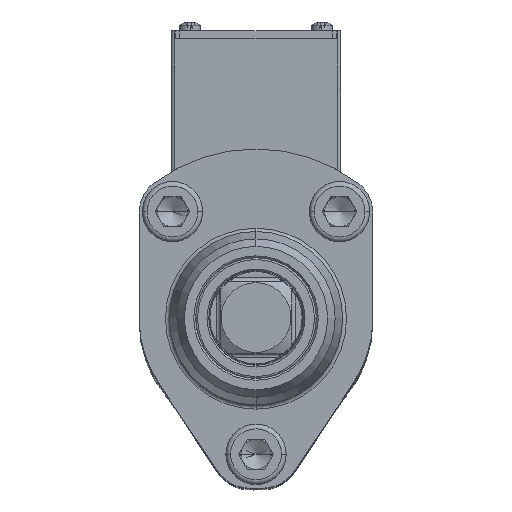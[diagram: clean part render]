
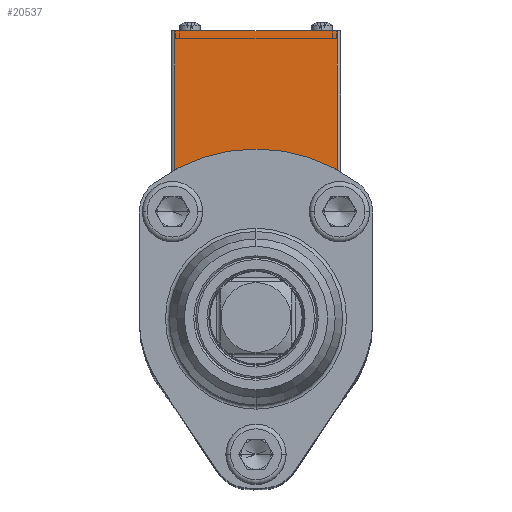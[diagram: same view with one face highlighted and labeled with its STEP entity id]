
A CAD part, top view. The second image highlights one B-rep face of the part: STEP entity #20537.
In plain terms, the highlighted planar face has unit normal (0, 0, 1).
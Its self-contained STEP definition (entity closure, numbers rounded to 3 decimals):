
#250 = ORIENTED_EDGE ( 'NONE', *, *, #21887, .F. ) ;
#332 = CARTESIAN_POINT ( 'NONE',  ( -8.7, 41., -103.5 ) ) ;
#412 = LINE ( 'NONE', #14936, #9082 ) ;
#553 = EDGE_CURVE ( 'NONE', #14847, #8975, #4356, .T. ) ;
#686 = EDGE_LOOP ( 'NONE', ( #22682, #13495, #1540, #11958, #11214, #12500, #9325, #7942, #18133, #9189 ) ) ;
#717 = VERTEX_POINT ( 'NONE', #8423 ) ;
#843 = DIRECTION ( 'NONE',  ( 0., 0., 1. ) ) ;
#953 = DIRECTION ( 'NONE',  ( 1., 0., 0. ) ) ;
#1086 = CIRCLE ( 'NONE', #7559, 1.7 ) ;
#1512 = DIRECTION ( 'NONE',  ( 0., 0., 1. ) ) ;
#1540 = ORIENTED_EDGE ( 'NONE', *, *, #5156, .F. ) ;
#1842 = VECTOR ( 'NONE', #18206, 1000. ) ;
#2228 = ORIENTED_EDGE ( 'NONE', *, *, #4672, .F. ) ;
#2335 = DIRECTION ( 'NONE',  ( 1., 0., 0. ) ) ;
#2345 = CIRCLE ( 'NONE', #9941, 32. ) ;
#2485 = CARTESIAN_POINT ( 'NONE',  ( 8.7, 41., -103.5 ) ) ;
#2515 = CARTESIAN_POINT ( 'NONE',  ( 21.5, 77., -103.5 ) ) ;
#2613 = EDGE_LOOP ( 'NONE', ( #17726, #2228 ) ) ;
#2830 = VERTEX_POINT ( 'NONE', #17003 ) ;
#2856 = CARTESIAN_POINT ( 'NONE',  ( -7.1, 33.25, -103.5 ) ) ;
#3631 = VERTEX_POINT ( 'NONE', #11659 ) ;
#3902 = VERTEX_POINT ( 'NONE', #17457 ) ;
#3985 = CIRCLE ( 'NONE', #13872, 1.7 ) ;
#4142 = AXIS2_PLACEMENT_3D ( 'NONE', #15498, #21015, #20881 ) ;
#4206 = DIRECTION ( 'NONE',  ( 0., 0., 1. ) ) ;
#4304 = VERTEX_POINT ( 'NONE', #15462 ) ;
#4356 = CIRCLE ( 'NONE', #17660, 1.7 ) ;
#4672 = EDGE_CURVE ( 'NONE', #717, #8971, #1086, .T. ) ;
#4676 = VECTOR ( 'NONE', #9763, 1000. ) ;
#4820 = CARTESIAN_POINT ( 'NONE',  ( -21.5, 77., -103.5 ) ) ;
#5065 = VECTOR ( 'NONE', #21774, 1000. ) ;
#5156 = EDGE_CURVE ( 'NONE', #17958, #21892, #21968, .T. ) ;
#5400 = CIRCLE ( 'NONE', #8461, 1.7 ) ;
#5615 = CARTESIAN_POINT ( 'NONE',  ( 7., 41., -103.5 ) ) ;
#5831 = EDGE_CURVE ( 'NONE', #7071, #3631, #6421, .T. ) ;
#6421 = CIRCLE ( 'NONE', #14376, 5.1 ) ;
#6908 = DIRECTION ( 'NONE',  ( 1., 0., 0. ) ) ;
#6997 = EDGE_CURVE ( 'NONE', #14646, #3902, #21617, .T. ) ;
#7060 = DIRECTION ( 'NONE',  ( -1., 0., 0. ) ) ;
#7071 = VERTEX_POINT ( 'NONE', #14396 ) ;
#7097 = EDGE_CURVE ( 'NONE', #19325, #4304, #10835, .T. ) ;
#7559 = AXIS2_PLACEMENT_3D ( 'NONE', #17149, #843, #22304 ) ;
#7894 = AXIS2_PLACEMENT_3D ( 'NONE', #18644, #9821, #2335 ) ;
#7942 = ORIENTED_EDGE ( 'NONE', *, *, #6997, .T. ) ;
#8267 = FACE_OUTER_BOUND ( 'NONE', #686, .T. ) ;
#8423 = CARTESIAN_POINT ( 'NONE',  ( 5.3, 41., -103.5 ) ) ;
#8461 = AXIS2_PLACEMENT_3D ( 'NONE', #10799, #9107, #17828 ) ;
#8971 = VERTEX_POINT ( 'NONE', #2485 ) ;
#8975 = VERTEX_POINT ( 'NONE', #332 ) ;
#9082 = VECTOR ( 'NONE', #12771, 1000. ) ;
#9107 = DIRECTION ( 'NONE',  ( 0., 0., 1. ) ) ;
#9189 = ORIENTED_EDGE ( 'NONE', *, *, #15207, .T. ) ;
#9325 = ORIENTED_EDGE ( 'NONE', *, *, #13688, .F. ) ;
#9385 = CIRCLE ( 'NONE', #20837, 2. ) ;
#9560 = CARTESIAN_POINT ( 'NONE',  ( -7., 41., -103.5 ) ) ;
#9763 = DIRECTION ( 'NONE',  ( 0., 1., 0. ) ) ;
#9821 = DIRECTION ( 'NONE',  ( 0., 0., 1. ) ) ;
#9941 = AXIS2_PLACEMENT_3D ( 'NONE', #14509, #17852, #19888 ) ;
#10317 = CARTESIAN_POINT ( 'NONE',  ( -6.682, 31.295, -103.5 ) ) ;
#10434 = CARTESIAN_POINT ( 'NONE',  ( -5.1, 33.25, -103.5 ) ) ;
#10502 = DIRECTION ( 'NONE',  ( 0., 0., -1. ) ) ;
#10556 = CARTESIAN_POINT ( 'NONE',  ( -21.5, 23.701, -103.5 ) ) ;
#10567 = DIRECTION ( 'NONE',  ( 0., 0., 1. ) ) ;
#10678 = CARTESIAN_POINT ( 'NONE',  ( 5.1, 26., -103.5 ) ) ;
#10799 = CARTESIAN_POINT ( 'NONE',  ( -7., 41., -103.5 ) ) ;
#10835 = LINE ( 'NONE', #23509, #1842 ) ;
#11214 = ORIENTED_EDGE ( 'NONE', *, *, #20447, .F. ) ;
#11352 = FACE_BOUND ( 'NONE', #17147, .T. ) ;
#11659 = CARTESIAN_POINT ( 'NONE',  ( -5.1, 38., -103.5 ) ) ;
#11854 = VECTOR ( 'NONE', #23558, 1000. ) ;
#11958 = ORIENTED_EDGE ( 'NONE', *, *, #19152, .T. ) ;
#12500 = ORIENTED_EDGE ( 'NONE', *, *, #5831, .F. ) ;
#12771 = DIRECTION ( 'NONE',  ( 0., -1., 0. ) ) ;
#12920 = LINE ( 'NONE', #10678, #5065 ) ;
#13495 = ORIENTED_EDGE ( 'NONE', *, *, #14774, .T. ) ;
#13688 = EDGE_CURVE ( 'NONE', #14646, #7071, #12920, .T. ) ;
#13872 = AXIS2_PLACEMENT_3D ( 'NONE', #5615, #22208, #15024 ) ;
#14376 = AXIS2_PLACEMENT_3D ( 'NONE', #23258, #1512, #6908 ) ;
#14396 = CARTESIAN_POINT ( 'NONE',  ( 5.1, 38., -103.5 ) ) ;
#14509 = CARTESIAN_POINT ( 'NONE',  ( 0., 0., -103.5 ) ) ;
#14646 = VERTEX_POINT ( 'NONE', #22497 ) ;
#14774 = EDGE_CURVE ( 'NONE', #19325, #21892, #21499, .T. ) ;
#14847 = VERTEX_POINT ( 'NONE', #18495 ) ;
#14936 = CARTESIAN_POINT ( 'NONE',  ( -5.1, 26., -103.5 ) ) ;
#15024 = DIRECTION ( 'NONE',  ( 1., 0., 0. ) ) ;
#15207 = EDGE_CURVE ( 'NONE', #2830, #4304, #18831, .T. ) ;
#15462 = CARTESIAN_POINT ( 'NONE',  ( 21.5, 77., -103.5 ) ) ;
#15498 = CARTESIAN_POINT ( 'NONE',  ( 7.1, 33.25, -103.5 ) ) ;
#15523 = FACE_BOUND ( 'NONE', #2613, .T. ) ;
#16455 = EDGE_CURVE ( 'NONE', #8971, #717, #3985, .T. ) ;
#17003 = CARTESIAN_POINT ( 'NONE',  ( 21.5, 23.701, -103.5 ) ) ;
#17147 = EDGE_LOOP ( 'NONE', ( #22896, #250 ) ) ;
#17149 = CARTESIAN_POINT ( 'NONE',  ( 7., 41., -103.5 ) ) ;
#17457 = CARTESIAN_POINT ( 'NONE',  ( 6.682, 31.295, -103.5 ) ) ;
#17549 = CARTESIAN_POINT ( 'NONE',  ( -22.5, 77., -103.5 ) ) ;
#17660 = AXIS2_PLACEMENT_3D ( 'NONE', #9560, #4206, #953 ) ;
#17726 = ORIENTED_EDGE ( 'NONE', *, *, #16455, .F. ) ;
#17828 = DIRECTION ( 'NONE',  ( 1., 0., 0. ) ) ;
#17852 = DIRECTION ( 'NONE',  ( 0., 0., 1. ) ) ;
#17958 = VERTEX_POINT ( 'NONE', #10317 ) ;
#18133 = ORIENTED_EDGE ( 'NONE', *, *, #21652, .F. ) ;
#18206 = DIRECTION ( 'NONE',  ( 1., 0., 0. ) ) ;
#18495 = CARTESIAN_POINT ( 'NONE',  ( -5.3, 41., -103.5 ) ) ;
#18644 = CARTESIAN_POINT ( 'NONE',  ( 0., 0., -103.5 ) ) ;
#18831 = LINE ( 'NONE', #2515, #4676 ) ;
#19152 = EDGE_CURVE ( 'NONE', #17958, #23017, #9385, .T. ) ;
#19325 = VERTEX_POINT ( 'NONE', #22016 ) ;
#19403 = DIRECTION ( 'NONE',  ( -1., 0., 0. ) ) ;
#19888 = DIRECTION ( 'NONE',  ( 1., 0., 0. ) ) ;
#20447 = EDGE_CURVE ( 'NONE', #3631, #23017, #412, .T. ) ;
#20537 = ADVANCED_FACE ( 'NONE', ( #8267, #15523, #11352 ), #20548, .F. ) ;
#20548 = PLANE ( 'NONE',  #22060 ) ;
#20837 = AXIS2_PLACEMENT_3D ( 'NONE', #2856, #10567, #19403 ) ;
#20881 = DIRECTION ( 'NONE',  ( -1., 0., 0. ) ) ;
#21015 = DIRECTION ( 'NONE',  ( 0., 0., 1. ) ) ;
#21499 = LINE ( 'NONE', #4820, #11854 ) ;
#21617 = CIRCLE ( 'NONE', #4142, 2. ) ;
#21652 = EDGE_CURVE ( 'NONE', #2830, #3902, #2345, .T. ) ;
#21774 = DIRECTION ( 'NONE',  ( 0., 1., 0. ) ) ;
#21887 = EDGE_CURVE ( 'NONE', #8975, #14847, #5400, .T. ) ;
#21892 = VERTEX_POINT ( 'NONE', #10556 ) ;
#21968 = CIRCLE ( 'NONE', #7894, 32. ) ;
#22016 = CARTESIAN_POINT ( 'NONE',  ( -21.5, 77., -103.5 ) ) ;
#22060 = AXIS2_PLACEMENT_3D ( 'NONE', #17549, #10502, #7060 ) ;
#22208 = DIRECTION ( 'NONE',  ( 0., 0., 1. ) ) ;
#22304 = DIRECTION ( 'NONE',  ( 1., 0., 0. ) ) ;
#22497 = CARTESIAN_POINT ( 'NONE',  ( 5.1, 33.25, -103.5 ) ) ;
#22682 = ORIENTED_EDGE ( 'NONE', *, *, #7097, .F. ) ;
#22896 = ORIENTED_EDGE ( 'NONE', *, *, #553, .F. ) ;
#23017 = VERTEX_POINT ( 'NONE', #10434 ) ;
#23258 = CARTESIAN_POINT ( 'NONE',  ( 0., 38., -103.5 ) ) ;
#23509 = CARTESIAN_POINT ( 'NONE',  ( -22.5, 77., -103.5 ) ) ;
#23558 = DIRECTION ( 'NONE',  ( 0., -1., 0. ) ) ;
